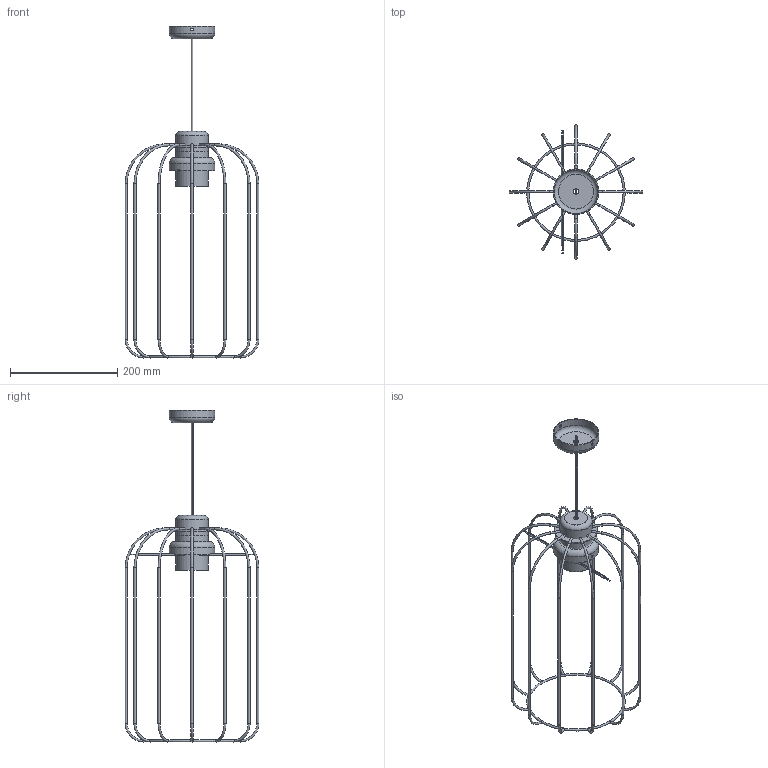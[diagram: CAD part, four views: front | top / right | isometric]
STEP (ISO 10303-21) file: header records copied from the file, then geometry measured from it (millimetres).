
FILE_DESCRIPTION( ( 'STEP AP203' ), '1' );
FILE_NAME( '//srvbf/BF Disegni/EASY/EASY-S Sospensione 3D.stp', '2020-10-16T07:35:36', ( ' ' ), ( ' ' ), 'XStep 1.0', ' ', ' ' );
FILE_SCHEMA( ( 'CONFIG_CONTROL_DESIGN) ( )' ) );
Length unit declared in the file: metre
Products named in the file (6): Assem1; 1; 2; 3; 4; 5
Bounding box: 250 x 250 x 619.9 mm (x, y, z)
Volume: 244652.4 mm3; surface area: 289080.2 mm2
Topology: 10 solids, 10 shells, 210 faces, 424 edges, 274 vertices
Faces by surface type: cylinder 88, plane 64, torus 58
Full cylindrical faces by diameter (mm): 1 x8, 1.5 x8, 4 x48, 5 x4, 10 x2, 10.5 x4, 58 x2, 60 x2, 80 x2, 82 x2, 85 x2
Entity records: 3446 total; most frequent: CARTESIAN_POINT 1319, DIRECTION 406, ORIENTED_EDGE 248, EDGE_LOOP 206, AXIS2_PLACEMENT_3D 199, FACE_OUTER_BOUND 174, EDGE_CURVE 124, VERTEX_POINT 120
